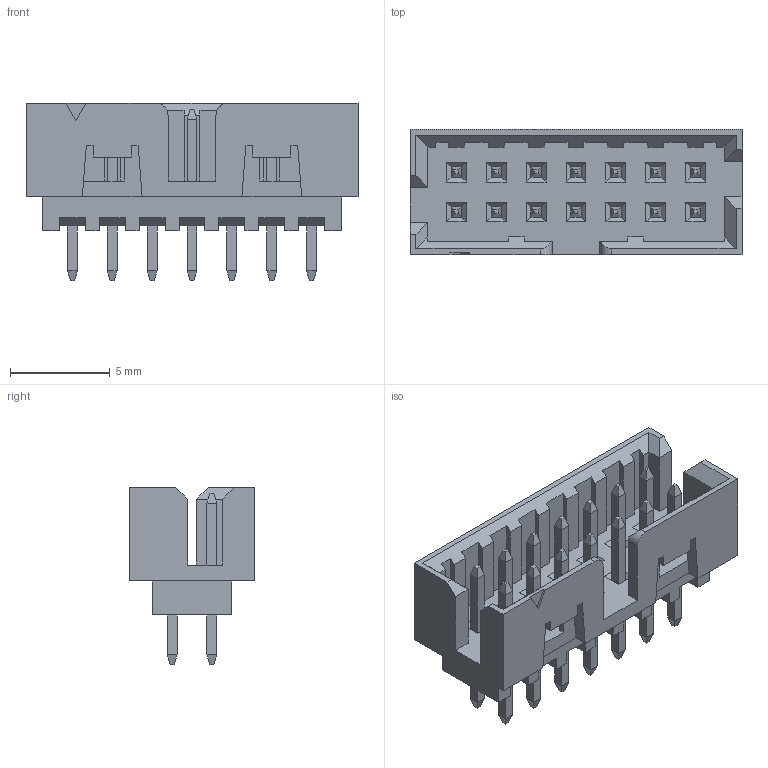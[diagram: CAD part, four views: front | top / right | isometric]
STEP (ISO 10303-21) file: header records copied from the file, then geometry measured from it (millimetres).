
FILE_DESCRIPTION(('Open CASCADE Model'),'2;1');
FILE_NAME('Open CASCADE Shape Model','2026-10-25T11:09:13',('Author'),( 'Open CASCADE'),'Open CASCADE STEP processor 8.0','Open CASCADE 8.0' ,'Unknown');
FILE_SCHEMA(('AUTOMOTIVE_DESIGN { 1 0 10303 214 1 1 1 1 }'));
Length unit declared in the file: millimetre
Products named in the file (1): Open CASCADE STEP translator 8.0 31
Bounding box: 16.65 x 6.3 x 8.9 mm (x, y, z)
Volume: 286.6 mm3; surface area: 831.8 mm2
Topology: 1 solids, 1 shells, 543 faces, 1336 edges, 830 vertices
Faces by surface type: plane 541, cylinder 2
Entity records: 32876 total; most frequent: CARTESIAN_POINT 5442, DIRECTION 5094, LINE 3994, VECTOR 3994, ORIENTED_EDGE 2672, PCURVE 2672, DEFINITIONAL_REPRESENTATION 2672, EDGE_CURVE 1336
